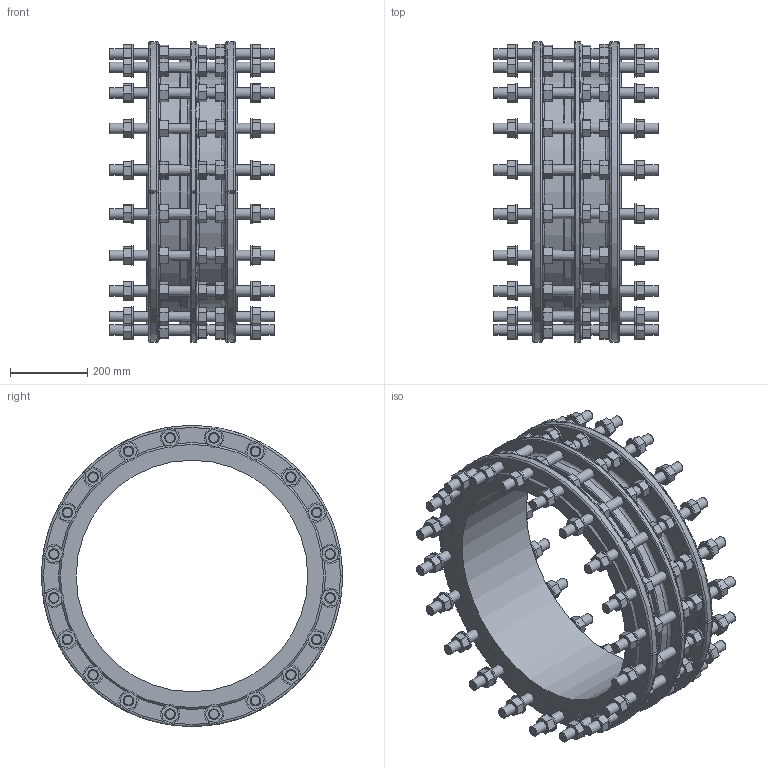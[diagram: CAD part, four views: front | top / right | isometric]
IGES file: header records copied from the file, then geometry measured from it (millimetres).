
Start section: SolidWorks IGES file using analytic representation for surfaces
Global section: file name: \\avksan2\techshare\PBM outline export from Enovia\O_265_911_DN600_0XXXXX01_L=235_REV01.igs; native system: SolidWorks 2022; preprocessor: SolidWorks 2022; author: pbm; date: 241212.091205; units: millimetre
Bounding box: 430 x 779.98 x 780 mm (x, y, z)
Surface area: 2741745.3 mm2 (no closed solid volume)
Topology: 0 solids, 0 shells, 1287 faces, 5808 edges, 5533 vertices
Faces by surface type: bspline 1000, revolution 287
